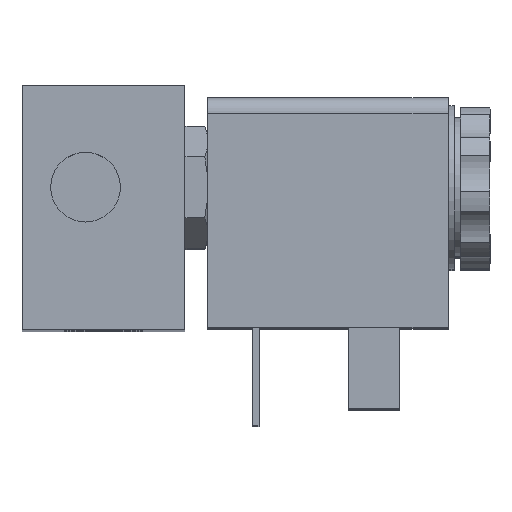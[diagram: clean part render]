
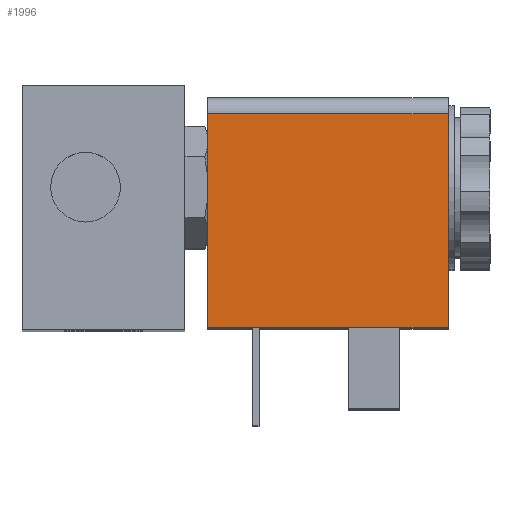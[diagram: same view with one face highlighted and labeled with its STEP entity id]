
A CAD part, top view. The second image highlights one B-rep face of the part: STEP entity #1996.
In plain terms, the highlighted planar face has unit normal (0, 0, 1) as drawn and (-1, 0, 0) by its records, which use the part's own axes.
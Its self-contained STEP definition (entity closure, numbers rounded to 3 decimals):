
#1996 = ADVANCED_FACE ( 'NONE', ( #15375 ), #16176, .T. ) ;
#4318 = EDGE_CURVE ( 'NONE', #29312, #29319, #15847, .T. ) ;
#4319 = EDGE_CURVE ( 'NONE', #29322, #29325, #15863, .T. ) ;
#4322 = EDGE_CURVE ( 'NONE', #29322, #29319, #15873, .T. ) ;
#4323 = EDGE_CURVE ( 'NONE', #29325, #29312, #15878, .T. ) ;
#6995 = ORIENTED_EDGE ( 'NONE', *, *, #4322, .F. ) ;
#6996 = ORIENTED_EDGE ( 'NONE', *, *, #4319, .T. ) ;
#6997 = ORIENTED_EDGE ( 'NONE', *, *, #4323, .T. ) ;
#6998 = ORIENTED_EDGE ( 'NONE', *, *, #4318, .T. ) ;
#7042 = EDGE_LOOP ( 'NONE', ( #6995, #6996, #6997, #6998 ) ) ;
#12217 = AXIS2_PLACEMENT_3D ( 'NONE', #16175, #16185, #16186 ) ;
#15375 = FACE_OUTER_BOUND ( 'NONE', #7042, .T. ) ;
#15847 = LINE ( 'NONE', #19932, #15870 ) ;
#15863 = LINE ( 'NONE', #19936, #15872 ) ;
#15870 = VECTOR ( 'NONE', #19938, 1000. ) ;
#15871 = VECTOR ( 'NONE', #19948, 1000. ) ;
#15872 = VECTOR ( 'NONE', #19940, 1000. ) ;
#15873 = LINE ( 'NONE', #19947, #15871 ) ;
#15878 = LINE ( 'NONE', #19949, #15879 ) ;
#15879 = VECTOR ( 'NONE', #19950, 1000. ) ;
#16175 = CARTESIAN_POINT ( 'NONE',  ( -11., -17.2, 0. ) ) ;
#16176 = PLANE ( 'NONE',  #12217 ) ;
#16185 = DIRECTION ( 'NONE',  ( -1., 0., 0. ) ) ;
#16186 = DIRECTION ( 'NONE',  ( 0., 0.707, 0.707 ) ) ;
#19932 = CARTESIAN_POINT ( 'NONE',  ( -11., 11., 29.5 ) ) ;
#19936 = CARTESIAN_POINT ( 'NONE',  ( -11., 11., 0. ) ) ;
#19938 = DIRECTION ( 'NONE',  ( 0., 1., 0. ) ) ;
#19940 = DIRECTION ( 'NONE',  ( 0., -1., 0. ) ) ;
#19947 = CARTESIAN_POINT ( 'NONE',  ( -11., 9., 0. ) ) ;
#19948 = DIRECTION ( 'NONE',  ( 0., 0., 1. ) ) ;
#19949 = CARTESIAN_POINT ( 'NONE',  ( -11., -17.2, 0. ) ) ;
#19950 = DIRECTION ( 'NONE',  ( 0., 0., 1. ) ) ;
#22385 = CARTESIAN_POINT ( 'NONE',  ( -11., -17.2, 29.5 ) ) ;
#22405 = CARTESIAN_POINT ( 'NONE',  ( -11., 9., 29.5 ) ) ;
#22408 = CARTESIAN_POINT ( 'NONE',  ( -11., 9., 0. ) ) ;
#22411 = CARTESIAN_POINT ( 'NONE',  ( -11., -17.2, 0. ) ) ;
#29312 = VERTEX_POINT ( 'NONE', #22385 ) ;
#29319 = VERTEX_POINT ( 'NONE', #22405 ) ;
#29322 = VERTEX_POINT ( 'NONE', #22408 ) ;
#29325 = VERTEX_POINT ( 'NONE', #22411 ) ;
